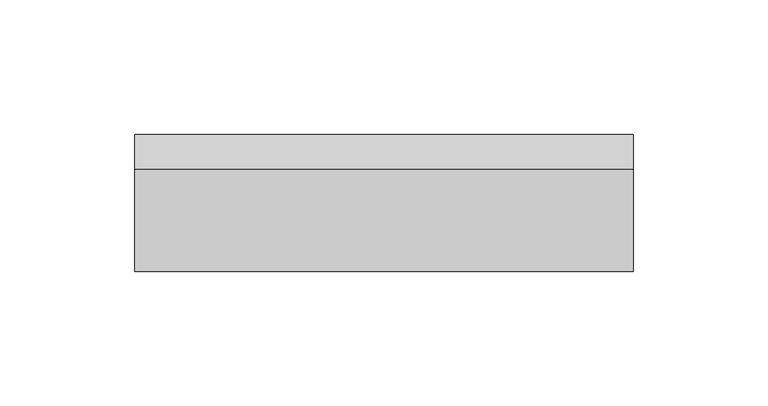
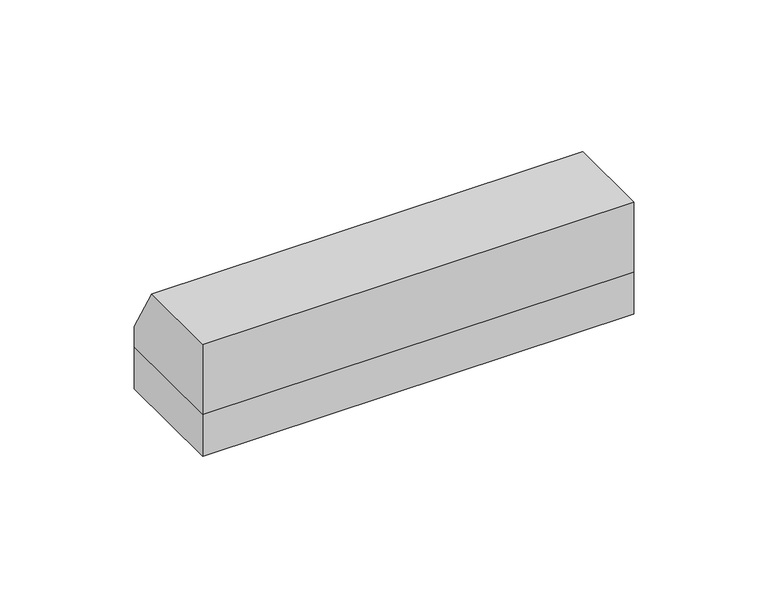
"""IFC4 building model written with IfcOpenShell, lengths in millimetres: proxy geometry, Spinneybeck_ARO Plank 7 : B - 2’-7” x 2” x 1 1/4”."""

from ifc_helpers import new_model, si_unit, frame, origin, origin_with_axes, place, context, project, spatial, polyline, outline, extrude, source, transform, mapped, element, save


def specialty_equipment_7868c63d(model_context):
    return source(origin(), model_context, "Body", "SweptSolid", [
        extrude(outline(polyline([(25.4, 19.05), (-25.4, 19.05), (-25.4, 50.8), (12.4059581, 50.8), (25.4, 28.2936592), (25.4, 19.05)])), frame((-92.5037266, 0.0, 0.0), z_axis=(1.0, 0.0, 0.0), x_axis=(0.0, 1.0, 0.0)), (0.0, 0.0, 1.0), 185.0074532),
        extrude(outline(polyline([(-92.5037266, -25.4), (-92.5037266, 25.4), (92.5037266, 25.4), (92.5037266, -25.4), (-92.5037266, -25.4)])), origin_with_axes(), (0.0, 0.0, 1.0), 19.05),
    ])


if __name__ == "__main__":
    model = new_model("IFC4")
    model_context = context("Model", 3, world=origin())
    ifc_project = project(units=[si_unit("LENGTHUNIT", "METRE", prefix="MILLI")], contexts=[model_context])
    site = spatial("IfcSite", under=ifc_project)
    building = spatial("IfcBuilding", under=site)
    placement = place(None, origin())
    specialty_equipment_shape = specialty_equipment_7868c63d(model_context)
    element("IfcBuildingElementProxy", 1, Name="Spinneybeck_ARO Plank 7 : B - 2’-7” x 2” x 1 1/4”", ObjectType="Spinneybeck_ARO Plank 7 : B - 2’-7” x 2” x 1 1/4”", at=placement, inside=building, context=model_context, shape_type="MappedRepresentation", body=[
        mapped(specialty_equipment_shape, transform((0.0, 0.0, 0.0), x_axis=(1.0, 0.0, 0.0), y_axis=(0.0, 1.0, 0.0), z_axis=(0.0, 0.0, 1.0))),
    ])
    save(model, "model.ifc")
